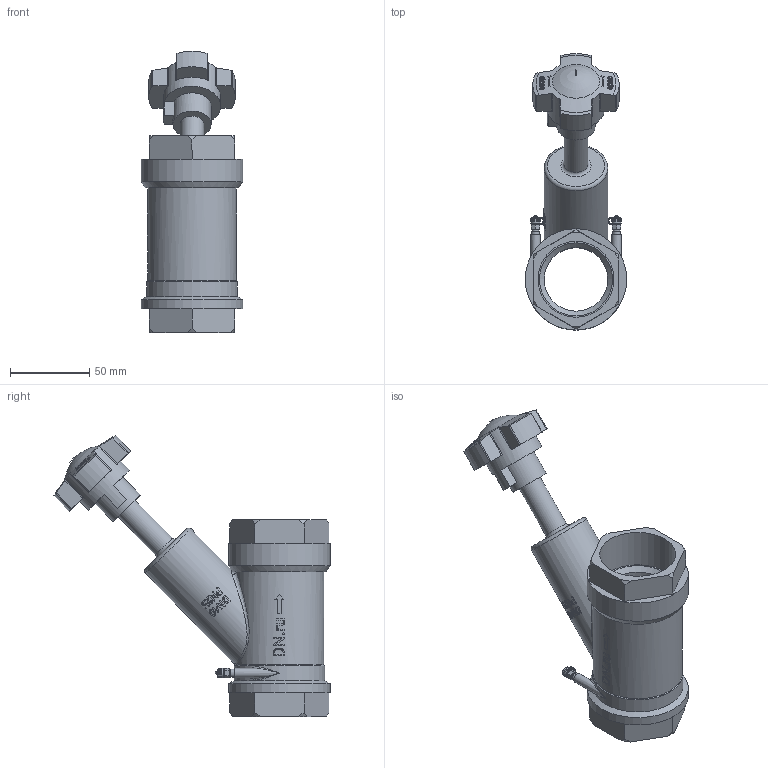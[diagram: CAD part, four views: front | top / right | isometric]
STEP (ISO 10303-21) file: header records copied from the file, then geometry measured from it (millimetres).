
FILE_DESCRIPTION(('STEP AP242'), '1');
FILE_NAME('VB0000P-T Êëàïàí áàëàíñèðîâî÷íûé DN.ru Äó40 Ðó25', '2026-04-26T18:03:41', ('R2D2'), (''), 'C3D Converter', 'C3D Toolkit', '');
FILE_SCHEMA(('AP242_MANAGED_MODEL_BASED_3D_ENGINEERING_MIM_LF { 1 0 10303 442 1 1 4 }'));
Length unit declared in the file: millimetre
Products named in the file (1): VB0000P-T
Bounding box: 63.8 x 173.85 x 176.95 mm (x, y, z)
Volume: 278346.2 mm3; surface area: 62437 mm2
Topology: 1 solids, 2 shells, 698 faces, 1909 edges, 1261 vertices
Faces by surface type: plane 303, extrusion 265, cylinder 79, cone 22, revolution 17, bspline 7, torus 3, sphere 2
Full cylindrical faces by diameter (mm): 2 x2, 4 x6, 5 x2, 6 x2, 15 x1, 24 x1, 36 x1, 40 x2, 41 x1, 47.8 x2, 57 x1, 63.8 x2
Entity records: 44970 total; most frequent: CARTESIAN_POINT 23446, ORIENTED_EDGE 3732, DIRECTION 2277, EDGE_CURVE 1866, VERTEX_POINT 1258, VECTOR 1076, B_SPLINE_CURVE_WITH_KNOTS 1019, LINE 811
